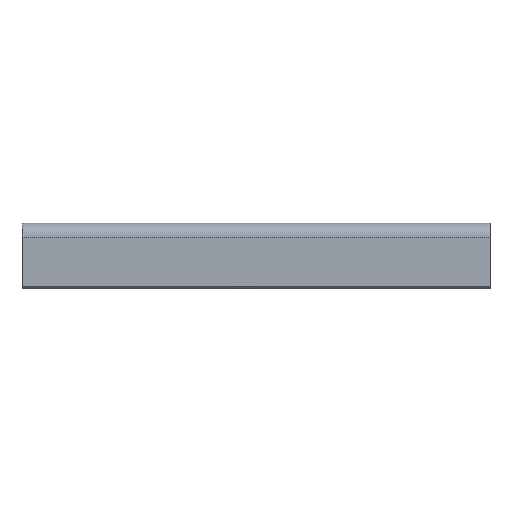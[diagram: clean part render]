
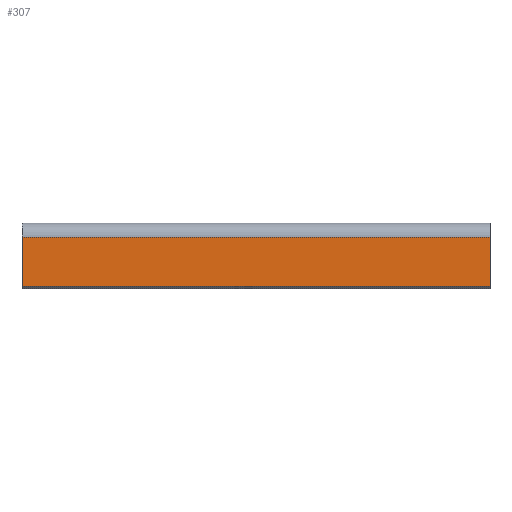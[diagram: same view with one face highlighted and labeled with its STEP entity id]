
A CAD part, front view. The second image highlights one B-rep face of the part: STEP entity #307.
In plain terms, the highlighted planar face has unit normal (0, -1, 0).
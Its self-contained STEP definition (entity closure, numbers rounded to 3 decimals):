
#10 = ORIENTED_EDGE ( 'NONE', *, *, #812, .T. ) ;
#155 = EDGE_CURVE ( 'NONE', #188, #589, #1020, .T. ) ;
#165 = CARTESIAN_POINT ( 'NONE',  ( 100., -12.5, 0.5 ) ) ;
#179 = PLANE ( 'NONE',  #701 ) ;
#185 = EDGE_CURVE ( 'NONE', #589, #917, #683, .T. ) ;
#188 = VERTEX_POINT ( 'NONE', #509 ) ;
#211 = DIRECTION ( 'NONE',  ( 0., 0., -1. ) ) ;
#249 = DIRECTION ( 'NONE',  ( -1., 0., 0. ) ) ;
#307 = ADVANCED_FACE ( 'NONE', ( #466 ), #179, .F. ) ;
#328 = VERTEX_POINT ( 'NONE', #882 ) ;
#342 = ORIENTED_EDGE ( 'NONE', *, *, #185, .F. ) ;
#359 = EDGE_LOOP ( 'NONE', ( #691, #342, #423, #10 ) ) ;
#418 = CARTESIAN_POINT ( 'NONE',  ( 100., -12.5, 0.5 ) ) ;
#423 = ORIENTED_EDGE ( 'NONE', *, *, #155, .F. ) ;
#466 = FACE_OUTER_BOUND ( 'NONE', #359, .T. ) ;
#501 = DIRECTION ( 'NONE',  ( 0., 1., 0. ) ) ;
#509 = CARTESIAN_POINT ( 'NONE',  ( 100., -12.5, 11. ) ) ;
#571 = CARTESIAN_POINT ( 'NONE',  ( 100., -12.5, 0.5 ) ) ;
#585 = VECTOR ( 'NONE', #249, 1000. ) ;
#589 = VERTEX_POINT ( 'NONE', #165 ) ;
#682 = DIRECTION ( 'NONE',  ( 0., 0., -1. ) ) ;
#683 = LINE ( 'NONE', #571, #585 ) ;
#686 = CARTESIAN_POINT ( 'NONE',  ( 0., -12.5, 0.5 ) ) ;
#691 = ORIENTED_EDGE ( 'NONE', *, *, #922, .T. ) ;
#701 = AXIS2_PLACEMENT_3D ( 'NONE', #418, #501, #1000 ) ;
#733 = CARTESIAN_POINT ( 'NONE',  ( 100., -12.5, 11. ) ) ;
#780 = VECTOR ( 'NONE', #871, 1000. ) ;
#812 = EDGE_CURVE ( 'NONE', #188, #328, #988, .T. ) ;
#852 = VECTOR ( 'NONE', #682, 1000. ) ;
#871 = DIRECTION ( 'NONE',  ( -1., 0., 0. ) ) ;
#882 = CARTESIAN_POINT ( 'NONE',  ( 0., -12.5, 11. ) ) ;
#917 = VERTEX_POINT ( 'NONE', #686 ) ;
#922 = EDGE_CURVE ( 'NONE', #328, #917, #1076, .T. ) ;
#924 = VECTOR ( 'NONE', #211, 1000. ) ;
#988 = LINE ( 'NONE', #733, #780 ) ;
#996 = CARTESIAN_POINT ( 'NONE',  ( 100., -12.5, 0.5 ) ) ;
#1000 = DIRECTION ( 'NONE',  ( 0., 0., 1. ) ) ;
#1020 = LINE ( 'NONE', #996, #924 ) ;
#1024 = CARTESIAN_POINT ( 'NONE',  ( 0., -12.5, 0.5 ) ) ;
#1076 = LINE ( 'NONE', #1024, #852 ) ;
